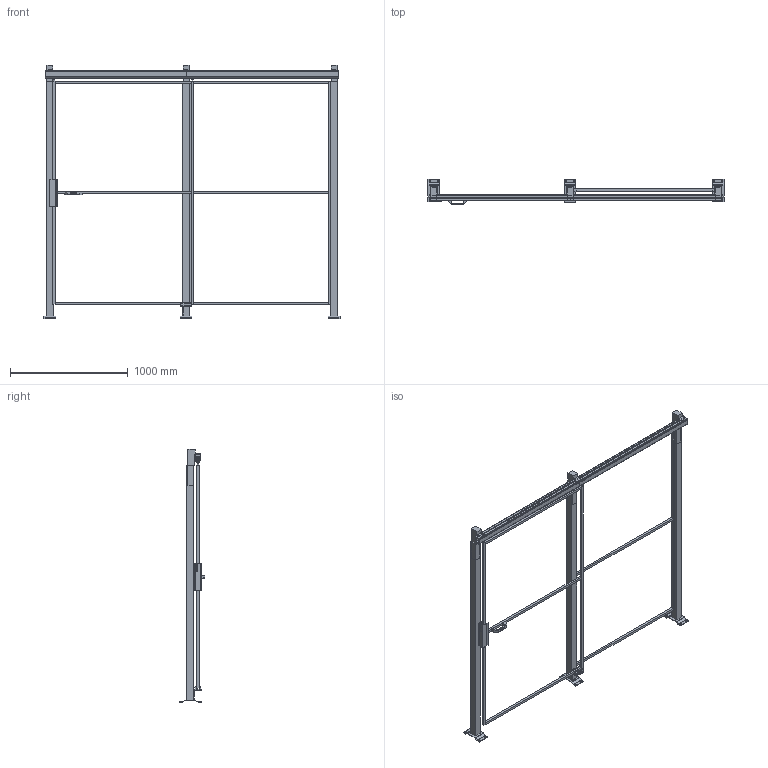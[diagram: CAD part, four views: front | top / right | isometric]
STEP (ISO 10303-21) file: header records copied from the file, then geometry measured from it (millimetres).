
FILE_DESCRIPTION(/* description */ (''),/* implementation_level */ '2;1');
FILE_NAME(/* name */ 'C:\SafeGuarding\ELABORATI\VZOR§POSUVNE_2025-02-03-12-53-45.stp',/* time_stamp */ '2025-02-03T12:53:47+01:00',/* author */ ('admin'),/* organization */ (''),/* preprocessor_version */ 'ST-DEVELOPER v18.1',/* originating_system */ 'AutoCAD Mechanical',/* authorisation */ '');
FILE_SCHEMA (('AUTOMOTIVE_DESIGN { 1 0 10303 214 3 1 1 }'));
Length unit declared in the file: millimetre
Products named in the file (2): Product; R_VFPA.REPE20.12001900
Assembly tree (2 placements, depth 2):
  Product
    R_VFPA.REPE20.12001900  x2
Bounding box: 2520 x 219.9 x 2154 mm (x, y, z)
Volume: 33956847.8 mm3; surface area: 4254603.8 mm2
Topology: 32 solids, 43 shells, 383 faces, 1277 edges, 1291 vertices
Faces by surface type: plane 343, cylinder 38, sphere 2
Full cylindrical faces by diameter (mm): 11 x12, 12 x2, 15 x4, 40 x4
Entity records: 12844 total; most frequent: CARTESIAN_POINT 2770, DIRECTION 1958, ORIENTED_EDGE 1834, EDGE_CURVE 966, LINE 904, VECTOR 904, VERTEX_POINT 688, AXIS2_PLACEMENT_3D 527
